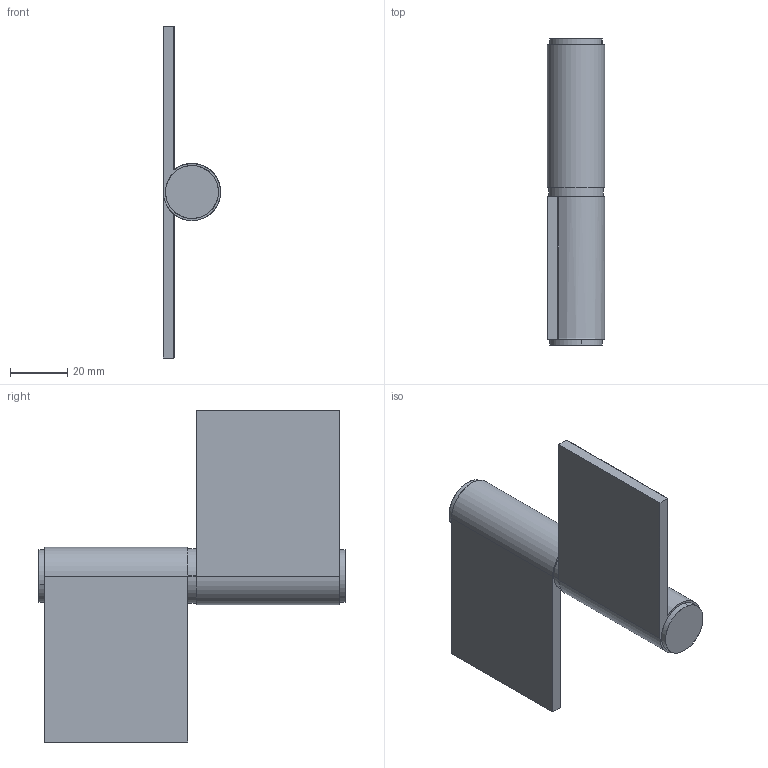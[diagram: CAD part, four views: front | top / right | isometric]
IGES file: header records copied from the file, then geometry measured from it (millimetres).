
Start section: SolidWorks IGES FILE using analytic representation for surfaces
Global section: file name: E:\妙子\仕事\solidworks\ヒンジ20130813\DEH-37S\DEH-37S-4\DEH-37S-4.IGS; native system: SolidWorks 2003 by SolidWorks Corporation; preprocessor: Version 5.3; author: 妙子,,; organization: 11; date: 130814.152915; units: millimetre
Bounding box: 20 x 107 x 116 mm (x, y, z)
Surface area: 27328.7 mm2 (no closed solid volume)
Topology: 0 solids, 0 shells, 48 faces, 904 edges, 904 vertices
Faces by surface type: revolution 28, bspline 20
